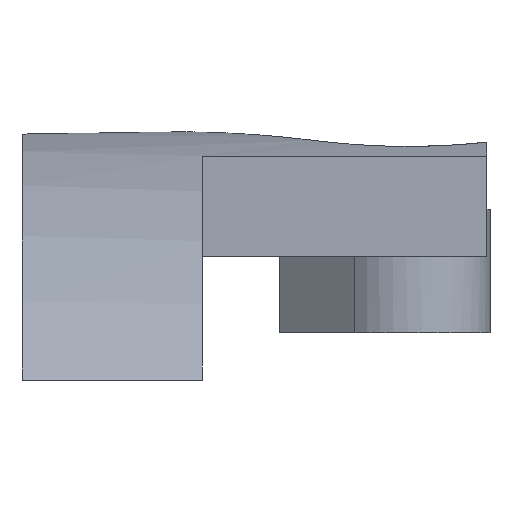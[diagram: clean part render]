
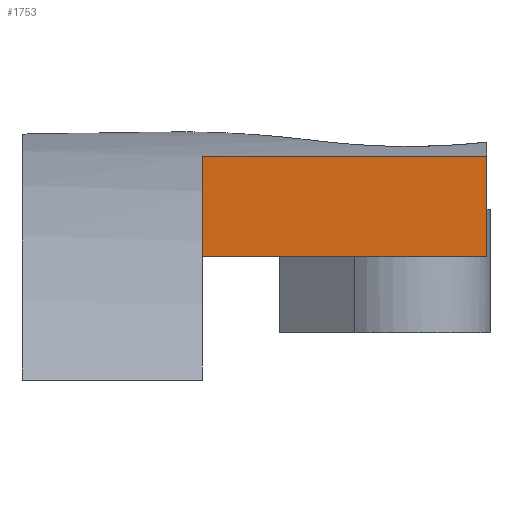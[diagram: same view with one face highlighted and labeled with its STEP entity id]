
A CAD part, front view. The second image highlights one B-rep face of the part: STEP entity #1753.
In plain terms, the highlighted planar face has unit normal (0, -1, 0).
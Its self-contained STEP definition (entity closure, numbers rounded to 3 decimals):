
#33 = CYLINDRICAL_SURFACE('',#34,23.85);
#34 = AXIS2_PLACEMENT_3D('',#35,#36,#37);
#35 = CARTESIAN_POINT('',(90.3,0.,0.));
#36 = DIRECTION('',(1.,0.,0.));
#37 = DIRECTION('',(-0.,0.,1.));
#84 = VERTEX_POINT('',#85);
#85 = CARTESIAN_POINT('',(96.,-6.,23.083));
#99 = PLANE('',#100);
#100 = AXIS2_PLACEMENT_3D('',#101,#102,#103);
#101 = CARTESIAN_POINT('',(96.,0.,0.));
#102 = DIRECTION('',(1.,0.,0.));
#103 = DIRECTION('',(-0.,0.,1.));
#111 = EDGE_CURVE('',#84,#112,#114,.T.);
#112 = VERTEX_POINT('',#113);
#113 = CARTESIAN_POINT('',(105.,-6.,23.083));
#114 = SURFACE_CURVE('',#115,(#119,#125),.PCURVE_S1.);
#115 = LINE('',#116,#117);
#116 = CARTESIAN_POINT('',(96.,-6.,23.083));
#117 = VECTOR('',#118,1.);
#118 = DIRECTION('',(1.,0.,0.));
#119 = PCURVE('',#33,#120);
#120 = DEFINITIONAL_REPRESENTATION('',(#121),#124);
#121 = B_SPLINE_CURVE_WITH_KNOTS('',1,(#122,#123),.UNSPECIFIED.,.F.,.F.,
  (2,2),(0.,9.),.PIECEWISE_BEZIER_KNOTS.);
#122 = CARTESIAN_POINT('',(6.537,5.7));
#123 = CARTESIAN_POINT('',(6.537,14.7));
#124 = ( GEOMETRIC_REPRESENTATION_CONTEXT(2) 
PARAMETRIC_REPRESENTATION_CONTEXT() REPRESENTATION_CONTEXT('2D SPACE',''
  ) );
#125 = PCURVE('',#126,#131);
#126 = PLANE('',#127);
#127 = AXIS2_PLACEMENT_3D('',#128,#129,#130);
#128 = CARTESIAN_POINT('',(96.,-6.,0.));
#129 = DIRECTION('',(-0.,1.,0.));
#130 = DIRECTION('',(0.,0.,1.));
#131 = DEFINITIONAL_REPRESENTATION('',(#132),#135);
#132 = B_SPLINE_CURVE_WITH_KNOTS('',1,(#133,#134),.UNSPECIFIED.,.F.,.F.,
  (2,2),(0.,9.),.PIECEWISE_BEZIER_KNOTS.);
#133 = CARTESIAN_POINT('',(23.083,0.));
#134 = CARTESIAN_POINT('',(23.083,9.));
#135 = ( GEOMETRIC_REPRESENTATION_CONTEXT(2) 
PARAMETRIC_REPRESENTATION_CONTEXT() REPRESENTATION_CONTEXT('2D SPACE',''
  ) );
#153 = PLANE('',#154);
#154 = AXIS2_PLACEMENT_3D('',#155,#156,#157);
#155 = CARTESIAN_POINT('',(105.,0.,0.));
#156 = DIRECTION('',(1.,0.,0.));
#157 = DIRECTION('',(-0.,0.,1.));
#595 = CYLINDRICAL_SURFACE('',#596,20.8);
#596 = AXIS2_PLACEMENT_3D('',#597,#598,#599);
#597 = CARTESIAN_POINT('',(89.3,0.,0.));
#598 = DIRECTION('',(1.,0.,0.));
#599 = DIRECTION('',(-0.,0.,1.));
#677 = VERTEX_POINT('',#678);
#678 = CARTESIAN_POINT('',(96.,-6.,19.916));
#699 = EDGE_CURVE('',#677,#700,#702,.T.);
#700 = VERTEX_POINT('',#701);
#701 = CARTESIAN_POINT('',(105.,-6.,19.916));
#702 = SURFACE_CURVE('',#703,(#707,#713),.PCURVE_S1.);
#703 = LINE('',#704,#705);
#704 = CARTESIAN_POINT('',(95.,-6.,19.916));
#705 = VECTOR('',#706,1.);
#706 = DIRECTION('',(1.,0.,0.));
#707 = PCURVE('',#595,#708);
#708 = DEFINITIONAL_REPRESENTATION('',(#709),#712);
#709 = B_SPLINE_CURVE_WITH_KNOTS('',1,(#710,#711),.UNSPECIFIED.,.F.,.F.,
  (2,2),(1.,10.),.PIECEWISE_BEZIER_KNOTS.);
#710 = CARTESIAN_POINT('',(6.576,6.7));
#711 = CARTESIAN_POINT('',(6.576,15.7));
#712 = ( GEOMETRIC_REPRESENTATION_CONTEXT(2) 
PARAMETRIC_REPRESENTATION_CONTEXT() REPRESENTATION_CONTEXT('2D SPACE',''
  ) );
#713 = PCURVE('',#126,#714);
#714 = DEFINITIONAL_REPRESENTATION('',(#715),#718);
#715 = B_SPLINE_CURVE_WITH_KNOTS('',1,(#716,#717),.UNSPECIFIED.,.F.,.F.,
  (2,2),(1.,10.),.PIECEWISE_BEZIER_KNOTS.);
#716 = CARTESIAN_POINT('',(19.916,0.));
#717 = CARTESIAN_POINT('',(19.916,9.));
#718 = ( GEOMETRIC_REPRESENTATION_CONTEXT(2) 
PARAMETRIC_REPRESENTATION_CONTEXT() REPRESENTATION_CONTEXT('2D SPACE',''
  ) );
#1729 = EDGE_CURVE('',#700,#112,#1730,.T.);
#1730 = SURFACE_CURVE('',#1731,(#1735,#1742),.PCURVE_S1.);
#1731 = LINE('',#1732,#1733);
#1732 = CARTESIAN_POINT('',(105.,-6.,0.));
#1733 = VECTOR('',#1734,1.);
#1734 = DIRECTION('',(0.,0.,1.));
#1735 = PCURVE('',#153,#1736);
#1736 = DEFINITIONAL_REPRESENTATION('',(#1737),#1741);
#1737 = LINE('',#1738,#1739);
#1738 = CARTESIAN_POINT('',(0.,6.));
#1739 = VECTOR('',#1740,1.);
#1740 = DIRECTION('',(1.,0.));
#1741 = ( GEOMETRIC_REPRESENTATION_CONTEXT(2) 
PARAMETRIC_REPRESENTATION_CONTEXT() REPRESENTATION_CONTEXT('2D SPACE',''
  ) );
#1742 = PCURVE('',#126,#1743);
#1743 = DEFINITIONAL_REPRESENTATION('',(#1744),#1748);
#1744 = LINE('',#1745,#1746);
#1745 = CARTESIAN_POINT('',(0.,9.));
#1746 = VECTOR('',#1747,1.);
#1747 = DIRECTION('',(1.,0.));
#1748 = ( GEOMETRIC_REPRESENTATION_CONTEXT(2) 
PARAMETRIC_REPRESENTATION_CONTEXT() REPRESENTATION_CONTEXT('2D SPACE',''
  ) );
#1753 = ADVANCED_FACE('',(#1754),#126,.F.);
#1754 = FACE_BOUND('',#1755,.F.);
#1755 = EDGE_LOOP('',(#1756,#1757,#1758,#1779));
#1756 = ORIENTED_EDGE('',*,*,#1729,.F.);
#1757 = ORIENTED_EDGE('',*,*,#699,.F.);
#1758 = ORIENTED_EDGE('',*,*,#1759,.T.);
#1759 = EDGE_CURVE('',#677,#84,#1760,.T.);
#1760 = SURFACE_CURVE('',#1761,(#1765,#1772),.PCURVE_S1.);
#1761 = LINE('',#1762,#1763);
#1762 = CARTESIAN_POINT('',(96.,-6.,0.));
#1763 = VECTOR('',#1764,1.);
#1764 = DIRECTION('',(0.,0.,1.));
#1765 = PCURVE('',#126,#1766);
#1766 = DEFINITIONAL_REPRESENTATION('',(#1767),#1771);
#1767 = LINE('',#1768,#1769);
#1768 = CARTESIAN_POINT('',(0.,0.));
#1769 = VECTOR('',#1770,1.);
#1770 = DIRECTION('',(1.,0.));
#1771 = ( GEOMETRIC_REPRESENTATION_CONTEXT(2) 
PARAMETRIC_REPRESENTATION_CONTEXT() REPRESENTATION_CONTEXT('2D SPACE',''
  ) );
#1772 = PCURVE('',#99,#1773);
#1773 = DEFINITIONAL_REPRESENTATION('',(#1774),#1778);
#1774 = LINE('',#1775,#1776);
#1775 = CARTESIAN_POINT('',(0.,6.));
#1776 = VECTOR('',#1777,1.);
#1777 = DIRECTION('',(1.,0.));
#1778 = ( GEOMETRIC_REPRESENTATION_CONTEXT(2) 
PARAMETRIC_REPRESENTATION_CONTEXT() REPRESENTATION_CONTEXT('2D SPACE',''
  ) );
#1779 = ORIENTED_EDGE('',*,*,#111,.T.);
